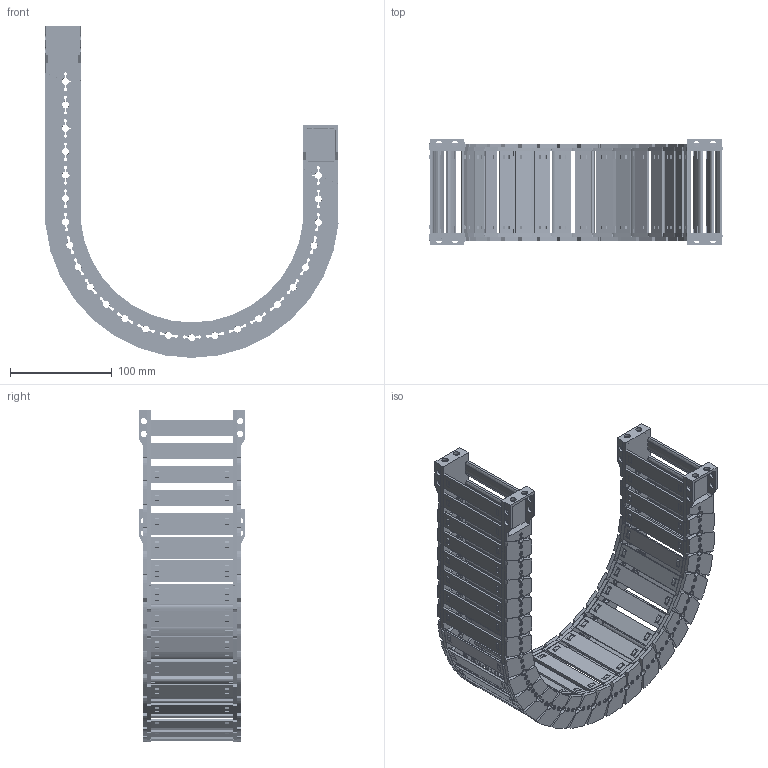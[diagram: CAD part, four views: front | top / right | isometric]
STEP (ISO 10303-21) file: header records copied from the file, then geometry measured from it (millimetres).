
FILE_DESCRIPTION(/* description */ (''),/* implementation_level */ '2;1');
FILE_NAME(/* name */ 'JY28-80-R125.stp',/* time_stamp */ '2026-06-03T15:57:35+08:00',/* author */ (''),/* organization */ (''),/* preprocessor_version */ 'ST-DEVELOPER v19.4',/* originating_system */ 'SIEMENS PLM Software NX2306.5001',/* authorisation */ '');
FILE_SCHEMA (('AP203_CONFIGURATION_CONTROLLED_3D_DESIGN_OF_MECHANICAL_PARTS_AND_ASSEMBLIES_MIM_LF { 1 0 10303 403 2 1 2}'));
Products named in the file (1): 简化图纸_objects
Bounding box: 287.57 x 104.5 x 325.62 mm (x, y, z)
Volume: 502389 mm3; surface area: 363695.9 mm2
Topology: 98 solids, 98 shells, 8138 faces, 23150 edges, 15130 vertices
Faces by surface type: plane 5330, cone 1480, cylinder 1278, bspline 48, torus 2
Full cylindrical faces by diameter (mm): 6 x24
Entity records: 275371 total; most frequent: CARTESIAN_POINT 61217, ORIENTED_EDGE 46208, DIRECTION 43382, EDGE_CURVE 23104, LINE 15292, VECTOR 15292, VERTEX_POINT 15108, AXIS2_PLACEMENT_3D 14045
